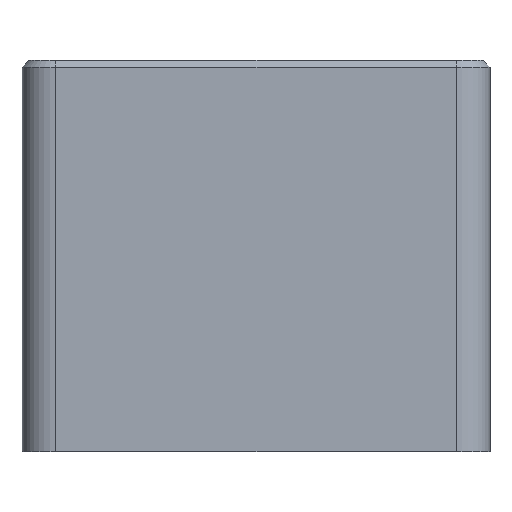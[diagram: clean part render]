
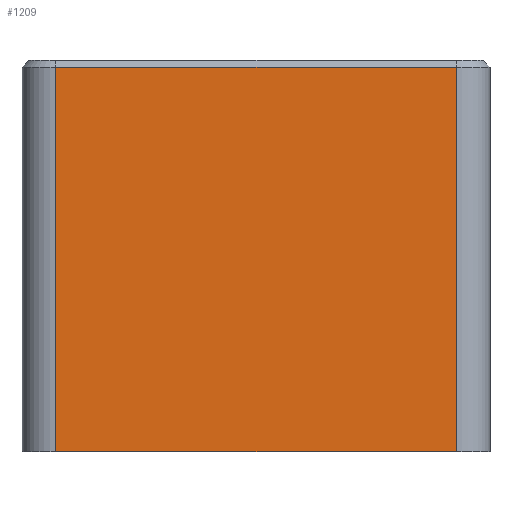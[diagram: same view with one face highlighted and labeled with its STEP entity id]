
A CAD part, left-side view. The second image highlights one B-rep face of the part: STEP entity #1209.
In plain terms, the highlighted planar face has unit normal (-1, 0, 0).
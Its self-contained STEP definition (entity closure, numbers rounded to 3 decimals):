
#100 = PLANE('',#101);
#101 = AXIS2_PLACEMENT_3D('',#102,#103,#104);
#102 = CARTESIAN_POINT('',(-132.5,-30.5,30.));
#103 = DIRECTION('',(0.,0.,1.));
#104 = DIRECTION('',(-1.,0.,0.));
#407 = VERTEX_POINT('',#408);
#408 = CARTESIAN_POINT('',(-222.5,-36.,30.));
#427 = CYLINDRICAL_SURFACE('',#428,5.5);
#428 = AXIS2_PLACEMENT_3D('',#429,#430,#431);
#429 = CARTESIAN_POINT('',(-217.,-36.,30.));
#430 = DIRECTION('',(0.,0.,1.));
#431 = DIRECTION('',(-1.,0.,0.));
#439 = EDGE_CURVE('',#407,#440,#442,.T.);
#440 = VERTEX_POINT('',#441);
#441 = CARTESIAN_POINT('',(-222.5,-101.,30.));
#442 = SURFACE_CURVE('',#443,(#447,#454),.PCURVE_S1.);
#443 = LINE('',#444,#445);
#444 = CARTESIAN_POINT('',(-222.5,-30.5,30.));
#445 = VECTOR('',#446,1.);
#446 = DIRECTION('',(0.,-1.,0.));
#447 = PCURVE('',#100,#448);
#448 = DEFINITIONAL_REPRESENTATION('',(#449),#453);
#449 = LINE('',#450,#451);
#450 = CARTESIAN_POINT('',(90.,0.));
#451 = VECTOR('',#452,1.);
#452 = DIRECTION('',(0.,1.));
#453 = ( GEOMETRIC_REPRESENTATION_CONTEXT(2) 
PARAMETRIC_REPRESENTATION_CONTEXT() REPRESENTATION_CONTEXT('2D SPACE',''
  ) );
#454 = PCURVE('',#455,#460);
#455 = PLANE('',#456);
#456 = AXIS2_PLACEMENT_3D('',#457,#458,#459);
#457 = CARTESIAN_POINT('',(-222.5,-30.5,30.));
#458 = DIRECTION('',(-1.,0.,0.));
#459 = DIRECTION('',(0.,0.,1.));
#460 = DEFINITIONAL_REPRESENTATION('',(#461),#465);
#461 = LINE('',#462,#463);
#462 = CARTESIAN_POINT('',(0.,0.));
#463 = VECTOR('',#464,1.);
#464 = DIRECTION('',(0.,-1.));
#465 = ( GEOMETRIC_REPRESENTATION_CONTEXT(2) 
PARAMETRIC_REPRESENTATION_CONTEXT() REPRESENTATION_CONTEXT('2D SPACE',''
  ) );
#484 = CYLINDRICAL_SURFACE('',#485,5.5);
#485 = AXIS2_PLACEMENT_3D('',#486,#487,#488);
#486 = CARTESIAN_POINT('',(-217.,-101.,30.));
#487 = DIRECTION('',(0.,0.,1.));
#488 = DIRECTION('',(-1.,0.,0.));
#679 = PLANE('',#680);
#680 = AXIS2_PLACEMENT_3D('',#681,#682,#683);
#681 = CARTESIAN_POINT('',(-221.4,-31.6,93.5));
#682 = DIRECTION('',(-0.707,0.,0.707)
  );
#683 = DIRECTION('',(0.,-1.,0.));
#1116 = VERTEX_POINT('',#1117);
#1117 = CARTESIAN_POINT('',(-222.5,-36.,92.4));
#1139 = EDGE_CURVE('',#407,#1116,#1140,.T.);
#1140 = SURFACE_CURVE('',#1141,(#1145,#1152),.PCURVE_S1.);
#1141 = LINE('',#1142,#1143);
#1142 = CARTESIAN_POINT('',(-222.5,-36.,30.));
#1143 = VECTOR('',#1144,1.);
#1144 = DIRECTION('',(0.,0.,1.));
#1145 = PCURVE('',#427,#1146);
#1146 = DEFINITIONAL_REPRESENTATION('',(#1147),#1151);
#1147 = LINE('',#1148,#1149);
#1148 = CARTESIAN_POINT('',(-0.,0.));
#1149 = VECTOR('',#1150,1.);
#1150 = DIRECTION('',(-0.,1.));
#1151 = ( GEOMETRIC_REPRESENTATION_CONTEXT(2) 
PARAMETRIC_REPRESENTATION_CONTEXT() REPRESENTATION_CONTEXT('2D SPACE',''
  ) );
#1152 = PCURVE('',#455,#1153);
#1153 = DEFINITIONAL_REPRESENTATION('',(#1154),#1158);
#1154 = LINE('',#1155,#1156);
#1155 = CARTESIAN_POINT('',(0.,-5.5));
#1156 = VECTOR('',#1157,1.);
#1157 = DIRECTION('',(1.,0.));
#1158 = ( GEOMETRIC_REPRESENTATION_CONTEXT(2) 
PARAMETRIC_REPRESENTATION_CONTEXT() REPRESENTATION_CONTEXT('2D SPACE',''
  ) );
#1166 = VERTEX_POINT('',#1167);
#1167 = CARTESIAN_POINT('',(-222.5,-101.,92.4));
#1189 = EDGE_CURVE('',#440,#1166,#1190,.T.);
#1190 = SURFACE_CURVE('',#1191,(#1195,#1202),.PCURVE_S1.);
#1191 = LINE('',#1192,#1193);
#1192 = CARTESIAN_POINT('',(-222.5,-101.,30.));
#1193 = VECTOR('',#1194,1.);
#1194 = DIRECTION('',(0.,0.,1.));
#1195 = PCURVE('',#484,#1196);
#1196 = DEFINITIONAL_REPRESENTATION('',(#1197),#1201);
#1197 = LINE('',#1198,#1199);
#1198 = CARTESIAN_POINT('',(0.,0.));
#1199 = VECTOR('',#1200,1.);
#1200 = DIRECTION('',(0.,1.));
#1201 = ( GEOMETRIC_REPRESENTATION_CONTEXT(2) 
PARAMETRIC_REPRESENTATION_CONTEXT() REPRESENTATION_CONTEXT('2D SPACE',''
  ) );
#1202 = PCURVE('',#455,#1203);
#1203 = DEFINITIONAL_REPRESENTATION('',(#1204),#1208);
#1204 = LINE('',#1205,#1206);
#1205 = CARTESIAN_POINT('',(0.,-70.5));
#1206 = VECTOR('',#1207,1.);
#1207 = DIRECTION('',(1.,0.));
#1208 = ( GEOMETRIC_REPRESENTATION_CONTEXT(2) 
PARAMETRIC_REPRESENTATION_CONTEXT() REPRESENTATION_CONTEXT('2D SPACE',''
  ) );
#1209 = ADVANCED_FACE('',(#1210),#455,.T.);
#1210 = FACE_BOUND('',#1211,.T.);
#1211 = EDGE_LOOP('',(#1212,#1233,#1234,#1235));
#1212 = ORIENTED_EDGE('',*,*,#1213,.F.);
#1213 = EDGE_CURVE('',#1116,#1166,#1214,.T.);
#1214 = SURFACE_CURVE('',#1215,(#1219,#1226),.PCURVE_S1.);
#1215 = LINE('',#1216,#1217);
#1216 = CARTESIAN_POINT('',(-222.5,-30.5,92.4));
#1217 = VECTOR('',#1218,1.);
#1218 = DIRECTION('',(0.,-1.,0.));
#1219 = PCURVE('',#455,#1220);
#1220 = DEFINITIONAL_REPRESENTATION('',(#1221),#1225);
#1221 = LINE('',#1222,#1223);
#1222 = CARTESIAN_POINT('',(62.4,0.));
#1223 = VECTOR('',#1224,1.);
#1224 = DIRECTION('',(0.,-1.));
#1225 = ( GEOMETRIC_REPRESENTATION_CONTEXT(2) 
PARAMETRIC_REPRESENTATION_CONTEXT() REPRESENTATION_CONTEXT('2D SPACE',''
  ) );
#1226 = PCURVE('',#679,#1227);
#1227 = DEFINITIONAL_REPRESENTATION('',(#1228),#1232);
#1228 = LINE('',#1229,#1230);
#1229 = CARTESIAN_POINT('',(-1.1,-1.556));
#1230 = VECTOR('',#1231,1.);
#1231 = DIRECTION('',(1.,0.));
#1232 = ( GEOMETRIC_REPRESENTATION_CONTEXT(2) 
PARAMETRIC_REPRESENTATION_CONTEXT() REPRESENTATION_CONTEXT('2D SPACE',''
  ) );
#1233 = ORIENTED_EDGE('',*,*,#1139,.F.);
#1234 = ORIENTED_EDGE('',*,*,#439,.T.);
#1235 = ORIENTED_EDGE('',*,*,#1189,.T.);
